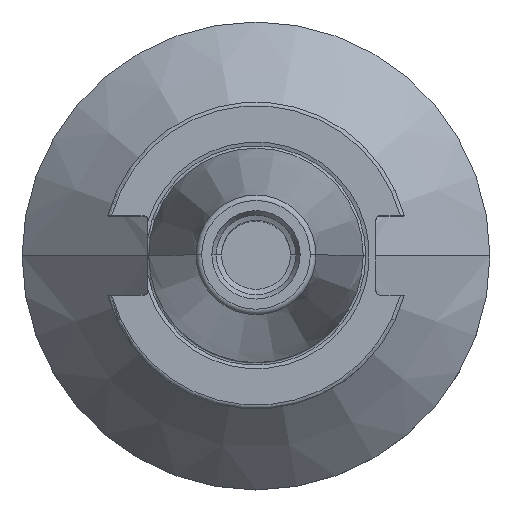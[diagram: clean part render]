
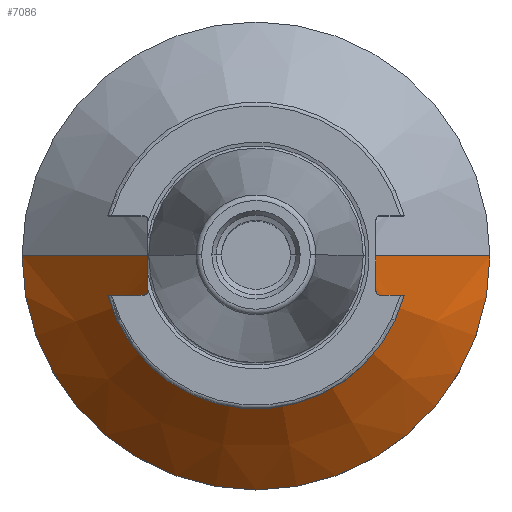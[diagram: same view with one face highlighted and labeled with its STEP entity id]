
A CAD part, top view. The second image highlights one B-rep face of the part: STEP entity #7086.
In plain terms, the highlighted conical face has half-angle 45 degrees and reference radius 48.425 mm.
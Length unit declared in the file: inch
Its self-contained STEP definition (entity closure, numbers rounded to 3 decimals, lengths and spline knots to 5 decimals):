
#219 = DIRECTION ( 'NONE',  ( 0.707, 0., -0.707 ) ) ;
#791 = FACE_OUTER_BOUND ( 'NONE', #6426, .T. ) ;
#943 = CARTESIAN_POINT ( 'NONE',  ( 1.9065, 0., -2.4695 ) ) ;
#1012 = DIRECTION ( 'NONE',  ( -0.707, 0., -0.707 ) ) ;
#1068 = AXIS2_PLACEMENT_3D ( 'NONE', #5449, #8413, #4013 ) ;
#1373 = DIRECTION ( 'NONE',  ( 1., 0., 0. ) ) ;
#1711 = LINE ( 'NONE', #943, #5430 ) ;
#1768 = DIRECTION ( 'NONE',  ( 0., 0., 1. ) ) ;
#1925 = CARTESIAN_POINT ( 'NONE',  ( 1.9065, 0., -2.4695 ) ) ;
#1966 = AXIS2_PLACEMENT_3D ( 'NONE', #2104, #8125, #1373 ) ;
#2104 = CARTESIAN_POINT ( 'NONE',  ( 0., 0., -2.4695 ) ) ;
#2330 = EDGE_CURVE ( 'NONE', #8266, #5371, #8356, .T. ) ;
#2581 = LINE ( 'NONE', #5532, #6941 ) ;
#2785 = ORIENTED_EDGE ( 'NONE', *, *, #3201, .F. ) ;
#2989 = CARTESIAN_POINT ( 'NONE',  ( -1.9065, 0., -2.4695 ) ) ;
#3201 = EDGE_CURVE ( 'NONE', #5371, #7770, #1711, .T. ) ;
#3922 = EDGE_CURVE ( 'NONE', #8266, #7150, #2581, .T. ) ;
#3929 = DIRECTION ( 'NONE',  ( -1., 0., 0. ) ) ;
#4013 = DIRECTION ( 'NONE',  ( -1., 0., 0. ) ) ;
#5371 = VERTEX_POINT ( 'NONE', #9523 ) ;
#5430 = VECTOR ( 'NONE', #219, 39.37008 ) ;
#5449 = CARTESIAN_POINT ( 'NONE',  ( 0., 0., -1.438 ) ) ;
#5532 = CARTESIAN_POINT ( 'NONE',  ( -1.9065, 0., -2.4695 ) ) ;
#5846 = ORIENTED_EDGE ( 'NONE', *, *, #3922, .T. ) ;
#6426 = EDGE_LOOP ( 'NONE', ( #7332, #5846, #7554, #2785 ) ) ;
#6941 = VECTOR ( 'NONE', #1012, 39.37008 ) ;
#7086 = ADVANCED_FACE ( 'NONE', ( #791 ), #9543, .T. ) ;
#7150 = VERTEX_POINT ( 'NONE', #2989 ) ;
#7332 = ORIENTED_EDGE ( 'NONE', *, *, #2330, .F. ) ;
#7554 = ORIENTED_EDGE ( 'NONE', *, *, #8650, .T. ) ;
#7638 = CIRCLE ( 'NONE', #8248, 1.9065 ) ;
#7768 = CARTESIAN_POINT ( 'NONE',  ( 0., 0., -2.4695 ) ) ;
#7770 = VERTEX_POINT ( 'NONE', #1925 ) ;
#8125 = DIRECTION ( 'NONE',  ( 0., 0., -1. ) ) ;
#8248 = AXIS2_PLACEMENT_3D ( 'NONE', #7768, #1768, #3929 ) ;
#8266 = VERTEX_POINT ( 'NONE', #8603 ) ;
#8356 = CIRCLE ( 'NONE', #1068, 0.875 ) ;
#8413 = DIRECTION ( 'NONE',  ( 0., 0., 1. ) ) ;
#8603 = CARTESIAN_POINT ( 'NONE',  ( -0.875, 0., -1.438 ) ) ;
#8650 = EDGE_CURVE ( 'NONE', #7150, #7770, #7638, .T. ) ;
#9523 = CARTESIAN_POINT ( 'NONE',  ( 0.875, 0., -1.438 ) ) ;
#9543 = CONICAL_SURFACE ( 'NONE', #1966, 1.9065, 0.785 ) ;
